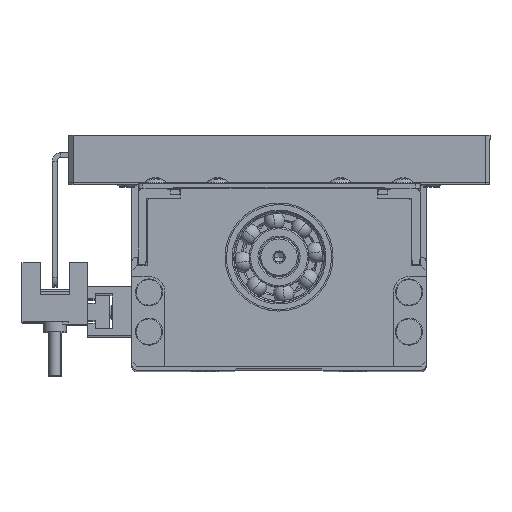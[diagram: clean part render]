
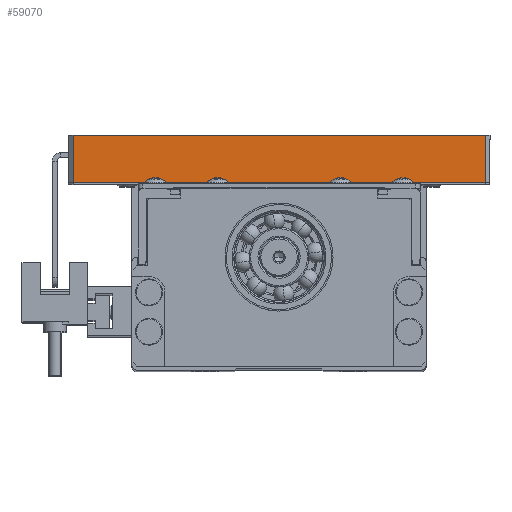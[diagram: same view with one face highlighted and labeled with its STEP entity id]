
A CAD part, top view. The second image highlights one B-rep face of the part: STEP entity #59070.
In plain terms, the highlighted planar face has unit normal (0, 0, 1).
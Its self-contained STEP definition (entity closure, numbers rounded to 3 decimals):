
#253 = EDGE_CURVE ( 'NONE', #60864, #99917, #37305, .T. ) ;
#4611 = VECTOR ( 'NONE', #50480, 1000. ) ;
#4960 = CARTESIAN_POINT ( 'NONE',  ( -43., 39.3, 40.75 ) ) ;
#6928 = DIRECTION ( 'NONE',  ( 0., -1., 0. ) ) ;
#7075 = VERTEX_POINT ( 'NONE', #14606 ) ;
#12164 = CARTESIAN_POINT ( 'NONE',  ( 42., 39.3, 40.75 ) ) ;
#12729 = DIRECTION ( 'NONE',  ( 1., 0., 0. ) ) ;
#14606 = CARTESIAN_POINT ( 'NONE',  ( 42., 49., 40.75 ) ) ;
#20660 = LINE ( 'NONE', #69248, #48437 ) ;
#21101 = CARTESIAN_POINT ( 'NONE',  ( -42., 39.3, 40.75 ) ) ;
#25103 = ORIENTED_EDGE ( 'NONE', *, *, #28723, .T. ) ;
#28723 = EDGE_CURVE ( 'NONE', #32145, #7075, #20660, .T. ) ;
#30163 = ORIENTED_EDGE ( 'NONE', *, *, #65874, .F. ) ;
#31304 = VECTOR ( 'NONE', #6928, 1000. ) ;
#32145 = VERTEX_POINT ( 'NONE', #12164 ) ;
#33112 = ORIENTED_EDGE ( 'NONE', *, *, #78064, .F. ) ;
#36279 = LINE ( 'NONE', #51945, #77247 ) ;
#37305 = LINE ( 'NONE', #21101, #31304 ) ;
#38676 = EDGE_LOOP ( 'NONE', ( #30163, #25103, #33112, #97965 ) ) ;
#38894 = DIRECTION ( 'NONE',  ( 0., 0., 1. ) ) ;
#44715 = LINE ( 'NONE', #4960, #4611 ) ;
#47222 = FACE_OUTER_BOUND ( 'NONE', #38676, .T. ) ;
#48437 = VECTOR ( 'NONE', #101617, 1000. ) ;
#50480 = DIRECTION ( 'NONE',  ( -1., 0., 0. ) ) ;
#51945 = CARTESIAN_POINT ( 'NONE',  ( 43., 49., 40.75 ) ) ;
#55587 = DIRECTION ( 'NONE',  ( 1., 0., 0. ) ) ;
#59070 = ADVANCED_FACE ( 'NONE', ( #47222 ), #70243, .T. ) ;
#60864 = VERTEX_POINT ( 'NONE', #89422 ) ;
#65874 = EDGE_CURVE ( 'NONE', #32145, #99917, #44715, .T. ) ;
#69248 = CARTESIAN_POINT ( 'NONE',  ( 42., 49., 40.75 ) ) ;
#70243 = PLANE ( 'NONE',  #94434 ) ;
#77247 = VECTOR ( 'NONE', #12729, 1000. ) ;
#78064 = EDGE_CURVE ( 'NONE', #60864, #7075, #36279, .T. ) ;
#78590 = CARTESIAN_POINT ( 'NONE',  ( 0., 49., 40.75 ) ) ;
#89422 = CARTESIAN_POINT ( 'NONE',  ( -42., 49., 40.75 ) ) ;
#94434 = AXIS2_PLACEMENT_3D ( 'NONE', #78590, #38894, #55587 ) ;
#97965 = ORIENTED_EDGE ( 'NONE', *, *, #253, .T. ) ;
#99371 = CARTESIAN_POINT ( 'NONE',  ( -42., 39.3, 40.75 ) ) ;
#99917 = VERTEX_POINT ( 'NONE', #99371 ) ;
#101617 = DIRECTION ( 'NONE',  ( 0., 1., 0. ) ) ;
